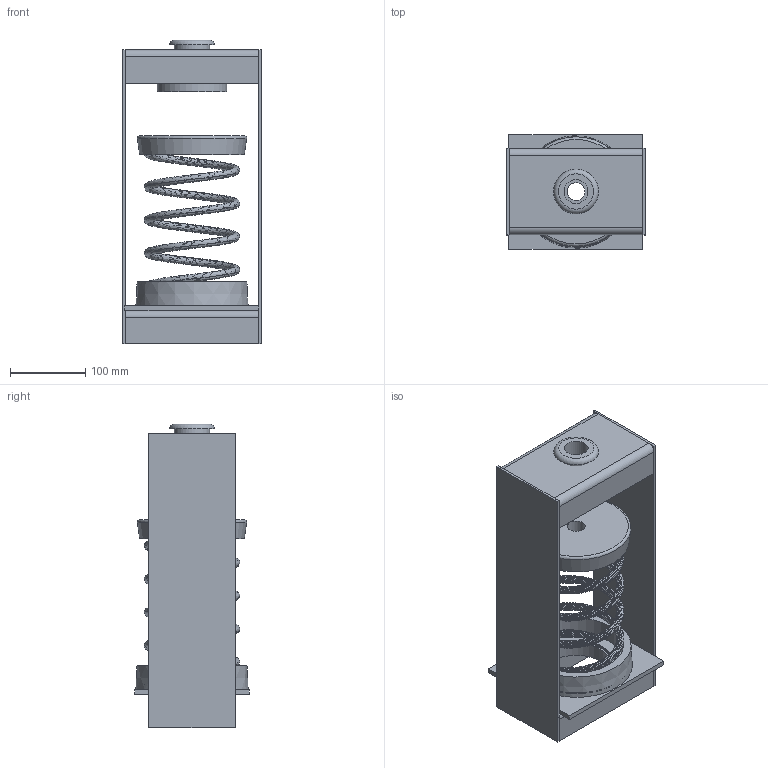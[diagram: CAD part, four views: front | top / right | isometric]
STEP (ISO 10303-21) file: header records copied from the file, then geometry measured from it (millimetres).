
FILE_DESCRIPTION(/* description */ (''),/* implementation_level */ '2;1');
FILE_NAME(/* name */ 'C:\001_Work\Designs\HANGER BOXES\30N 100 SERIES\30N-108-109, 130-132, 150-153\30N-153.stp',/* time_stamp */ '2015-05-26T11:02:58-04:00',/* author */ ('rramoutar'),/* organization */ ('Mason Industries Inc.'),/* preprocessor_version */ 'ST-DEVELOPER v15.2',/* originating_system */ 'Autodesk Inventor 2014',/* authorisation */ '');
FILE_SCHEMA (('AUTOMOTIVE_DESIGN { 1 0 10303 214 3 1 1 }'));
Length unit declared in the file: inch
Products named in the file (1): 30N-153
Bounding box: 184.15 x 152.4 x 403.23 mm (x, y, z)
Volume: 1464376.3 mm3; surface area: 690970.8 mm2
Topology: 12 solids, 13 shells, 174 faces, 382 edges, 244 vertices
Faces by surface type: plane 112, cylinder 34, bspline 22, cone 4, torus 2
Full cylindrical faces by diameter (mm): 23.812 x2, 31.75 x2, 38.1 x1, 41.275 x2, 46.831 x1, 82.55 x2, 88.9 x1, 92.075 x1, 93.662 x1, 95.25 x2, 96.837 x1, 96.838 x1, 98.425 x3, 125.412 x1, 129.381 x1, 146.05 x2
Entity records: 12919 total; most frequent: CARTESIAN_POINT 9096, ORIENTED_EDGE 696, DIRECTION 684, EDGE_CURVE 348, AXIS2_PLACEMENT_3D 251, VERTEX_POINT 240, EDGE_LOOP 236, LINE 182
